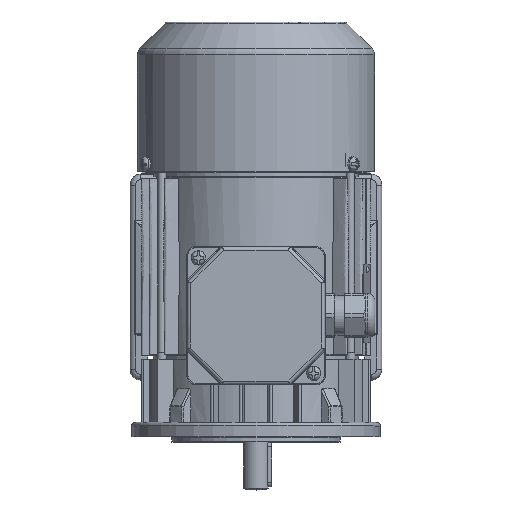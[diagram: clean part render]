
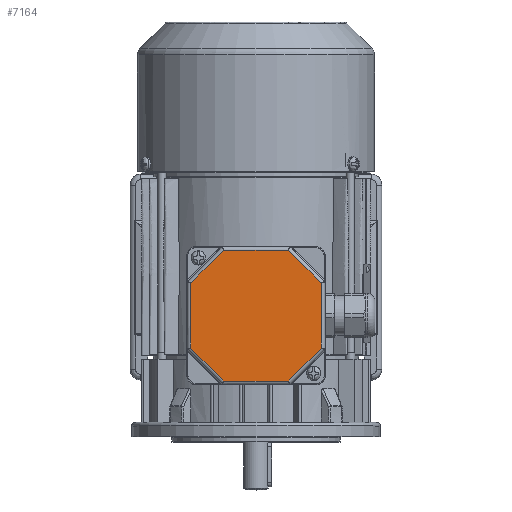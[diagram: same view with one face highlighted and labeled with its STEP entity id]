
A CAD part, top view. The second image highlights one B-rep face of the part: STEP entity #7164.
In plain terms, the highlighted planar face has unit normal (0, 0, 1).
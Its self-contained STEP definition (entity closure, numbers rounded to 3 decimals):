
#7164 = ADVANCED_FACE( '', ( #14751 ), #14752, .T. );
#14751 = FACE_OUTER_BOUND( '', #51150, .T. );
#14752 = PLANE( '', #51151 );
#51150 = EDGE_LOOP( '', ( #77438, #77439, #77440, #77441, #77442, #77443, #77444, #77445 ) );
#51151 = AXIS2_PLACEMENT_3D( '', #77446, #77447, #77448 );
#77438 = ORIENTED_EDGE( '', *, *, #88069, .T. );
#77439 = ORIENTED_EDGE( '', *, *, #90902, .T. );
#77440 = ORIENTED_EDGE( '', *, *, #87847, .T. );
#77441 = ORIENTED_EDGE( '', *, *, #88769, .T. );
#77442 = ORIENTED_EDGE( '', *, *, #90903, .T. );
#77443 = ORIENTED_EDGE( '', *, *, #84450, .T. );
#77444 = ORIENTED_EDGE( '', *, *, #90904, .T. );
#77445 = ORIENTED_EDGE( '', *, *, #90100, .T. );
#77446 = CARTESIAN_POINT( '', ( -39., 39., 12. ) );
#77447 = DIRECTION( '', ( 0., 0., 1. ) );
#77448 = DIRECTION( '', ( 1., 0., 0. ) );
#84450 = EDGE_CURVE( '', #94778, #94472, #94779, .T. );
#87847 = EDGE_CURVE( '', #100154, #100155, #100156, .F. );
#88069 = EDGE_CURVE( '', #96540, #100467, #100469, .F. );
#88769 = EDGE_CURVE( '', #100155, #100748, #101458, .T. );
#90100 = EDGE_CURVE( '', #103205, #96540, #103206, .T. );
#90902 = EDGE_CURVE( '', #100467, #100154, #104171, .T. );
#90903 = EDGE_CURVE( '', #100748, #94778, #104172, .F. );
#90904 = EDGE_CURVE( '', #94472, #103205, #104173, .F. );
#94472 = VERTEX_POINT( '', #115682 );
#94778 = VERTEX_POINT( '', #116911 );
#94779 = LINE( '', #116912, #116913 );
#96540 = VERTEX_POINT( '', #121787 );
#100154 = VERTEX_POINT( '', #134648 );
#100155 = VERTEX_POINT( '', #134649 );
#100156 = LINE( '', #134650, #134651 );
#100467 = VERTEX_POINT( '', #135606 );
#100469 = LINE( '', #135608, #135609 );
#100748 = VERTEX_POINT( '', #136590 );
#101458 = LINE( '', #138965, #138966 );
#103205 = VERTEX_POINT( '', #144378 );
#103206 = LINE( '', #144379, #144380 );
#104171 = LINE( '', #147474, #147475 );
#104172 = LINE( '', #147476, #147477 );
#104173 = LINE( '', #147478, #147479 );
#115682 = CARTESIAN_POINT( '', ( -18.255, -36.825, 12. ) );
#116911 = CARTESIAN_POINT( '', ( -36.825, -18.255, 12. ) );
#116912 = CARTESIAN_POINT( '', ( -17.679, -37.401, 12. ) );
#116913 = VECTOR( '', #151810, 1000. );
#121787 = CARTESIAN_POINT( '', ( 36.825, -18.255, 12. ) );
#134648 = CARTESIAN_POINT( '', ( 18.255, 36.825, 12. ) );
#134649 = CARTESIAN_POINT( '', ( -18.255, 36.825, 12. ) );
#134650 = CARTESIAN_POINT( '', ( -19.069, 36.825, 12. ) );
#134651 = VECTOR( '', #155672, 1000. );
#135606 = CARTESIAN_POINT( '', ( 36.825, 18.255, 12. ) );
#135608 = CARTESIAN_POINT( '', ( 36.825, 19.069, 12. ) );
#135609 = VECTOR( '', #155898, 1000. );
#136590 = CARTESIAN_POINT( '', ( -36.825, 18.255, 12. ) );
#138965 = CARTESIAN_POINT( '', ( -37.401, 17.679, 12. ) );
#138966 = VECTOR( '', #156675, 1000. );
#144378 = CARTESIAN_POINT( '', ( 18.255, -36.825, 12. ) );
#144379 = CARTESIAN_POINT( '', ( 37.401, -17.679, 12. ) );
#144380 = VECTOR( '', #158135, 1000. );
#147474 = CARTESIAN_POINT( '', ( 17.679, 37.401, 12. ) );
#147475 = VECTOR( '', #158887, 1000. );
#147476 = CARTESIAN_POINT( '', ( -36.825, -19.069, 12. ) );
#147477 = VECTOR( '', #158888, 1000. );
#147478 = CARTESIAN_POINT( '', ( 19.069, -36.825, 12. ) );
#147479 = VECTOR( '', #158889, 1000. );
#151810 = DIRECTION( '', ( 0.707, -0.707, 0. ) );
#155672 = DIRECTION( '', ( 1., 0., 0. ) );
#155898 = DIRECTION( '', ( 0., -1., 0. ) );
#156675 = DIRECTION( '', ( -0.707, -0.707, 0. ) );
#158135 = DIRECTION( '', ( 0.707, 0.707, 0. ) );
#158887 = DIRECTION( '', ( -0.707, 0.707, 0. ) );
#158888 = DIRECTION( '', ( 0., 1., 0. ) );
#158889 = DIRECTION( '', ( -1., 0., 0. ) );
